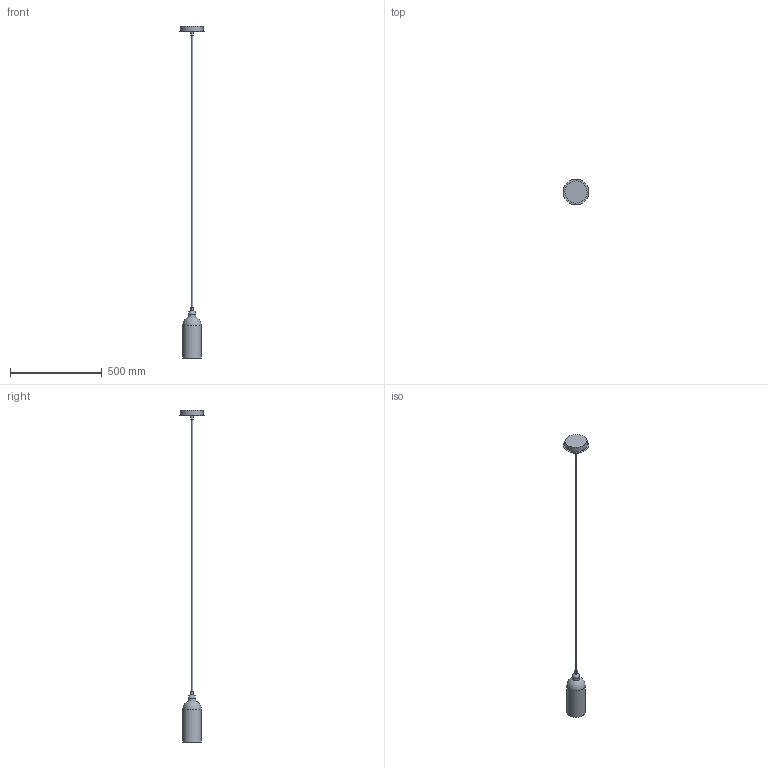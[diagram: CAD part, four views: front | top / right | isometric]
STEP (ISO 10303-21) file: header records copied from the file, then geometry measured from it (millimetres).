
FILE_DESCRIPTION(/* description */ (''),/* implementation_level */ '2;1');
FILE_NAME(/* name */ 'T:\B162 Odyssey Single Pendant MD\Pliki bryłowe handlowe\B162 Odyssey Single MD 3D files\B162 Odyssey Single MD.stp',/* time_stamp */ '2022-01-25T12:50:15+01:00',/* author */ ('Mariusz Awariusz'),/* organization */ (''),/* preprocessor_version */ 'ST-DEVELOPER v18.1',/* originating_system */ 'Autodesk Inventor 2022',/* authorisation */ '');
FILE_SCHEMA (('AUTOMOTIVE_DESIGN { 1 0 10303 214 3 1 1 }'));
Length unit declared in the file: millimetre
Products named in the file (1): B162 Odyssey Single Pendant MD CE v4_na potrzeby plików 3D_2_jako
 część
Bounding box: 140 x 140 x 1807.05 mm (x, y, z)
Volume: 667144.1 mm3; surface area: 220067.7 mm2
Topology: 1 solids, 1 shells, 34 faces, 56 edges, 33 vertices
Faces by surface type: plane 13, cylinder 9, cone 8, sphere 2, bspline 1, torus 1
Full cylindrical faces by diameter (mm): 7 x1, 13 x2, 30 x1, 42 x1, 94 x1, 100 x1, 120 x1, 140 x1
Entity records: 918 total; most frequent: CARTESIAN_POINT 220, DIRECTION 157, ORIENTED_EDGE 112, AXIS2_PLACEMENT_3D 71, EDGE_CURVE 56, EDGE_LOOP 43, CIRCLE 37, FACE_OUTER_BOUND 34
